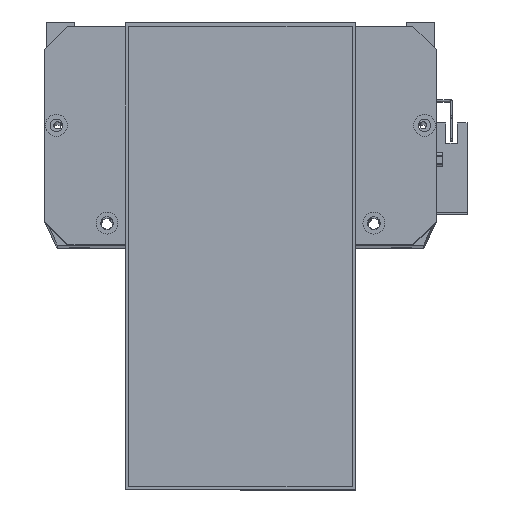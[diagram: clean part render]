
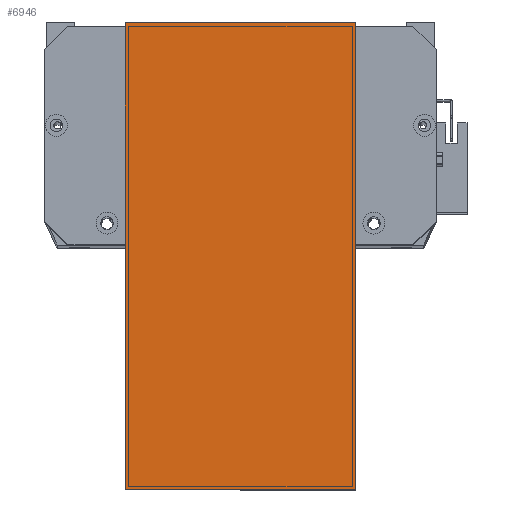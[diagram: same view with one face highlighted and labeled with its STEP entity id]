
A CAD part, top view. The second image highlights one B-rep face of the part: STEP entity #6946.
In plain terms, the highlighted planar face has unit normal (0, 0, 1) as drawn and (0, 0, -1) by its records, which use the part's own axes.
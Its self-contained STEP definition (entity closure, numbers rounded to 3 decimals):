
#1379 = DIRECTION ( 'NONE',  ( -1., 0., 0. ) ) ;
#1531 = CARTESIAN_POINT ( 'NONE',  ( -12., 19.5, 0. ) ) ;
#1579 = LINE ( 'NONE', #7196, #6642 ) ;
#1707 = AXIS2_PLACEMENT_3D ( 'NONE', #27386, #14382, #1379 ) ;
#2531 = VERTEX_POINT ( 'NONE', #24498 ) ;
#2862 = EDGE_CURVE ( 'NONE', #6962, #2531, #21119, .T. ) ;
#2915 = CARTESIAN_POINT ( 'NONE',  ( -12., 119.5, 0. ) ) ;
#4091 = VECTOR ( 'NONE', #10221, 1000. ) ;
#4379 = ORIENTED_EDGE ( 'NONE', *, *, #19352, .T. ) ;
#4855 = LINE ( 'NONE', #2915, #10649 ) ;
#6642 = VECTOR ( 'NONE', #15915, 1000. ) ;
#6946 = ADVANCED_FACE ( 'NONE', ( #21541 ), #10029, .T. ) ;
#6962 = VERTEX_POINT ( 'NONE', #23117 ) ;
#7041 = VERTEX_POINT ( 'NONE', #27623 ) ;
#7196 = CARTESIAN_POINT ( 'NONE',  ( 0., 0., 0. ) ) ;
#8339 = CARTESIAN_POINT ( 'NONE',  ( 0., 119.5, 0. ) ) ;
#10029 = PLANE ( 'NONE',  #1707 ) ;
#10221 = DIRECTION ( 'NONE',  ( 0., 1., 0. ) ) ;
#10649 = VECTOR ( 'NONE', #11564, 1000. ) ;
#11084 = ORIENTED_EDGE ( 'NONE', *, *, #2862, .F. ) ;
#11564 = DIRECTION ( 'NONE',  ( 1., 0., 0. ) ) ;
#14382 = DIRECTION ( 'NONE',  ( 0., 0., -1. ) ) ;
#14563 = CARTESIAN_POINT ( 'NONE',  ( 203., 0., 0. ) ) ;
#15273 = ORIENTED_EDGE ( 'NONE', *, *, #21856, .F. ) ;
#15915 = DIRECTION ( 'NONE',  ( 0., -1., 0. ) ) ;
#16719 = DIRECTION ( 'NONE',  ( 1., 0., 0. ) ) ;
#16881 = VERTEX_POINT ( 'NONE', #8339 ) ;
#19352 = EDGE_CURVE ( 'NONE', #16881, #7041, #4855, .T. ) ;
#19751 = VECTOR ( 'NONE', #16719, 1000. ) ;
#21119 = LINE ( 'NONE', #1531, #19751 ) ;
#21387 = LINE ( 'NONE', #14563, #4091 ) ;
#21541 = FACE_OUTER_BOUND ( 'NONE', #25504, .T. ) ;
#21856 = EDGE_CURVE ( 'NONE', #2531, #7041, #21387, .T. ) ;
#22138 = ORIENTED_EDGE ( 'NONE', *, *, #24740, .F. ) ;
#23117 = CARTESIAN_POINT ( 'NONE',  ( 0., 19.5, 0. ) ) ;
#24498 = CARTESIAN_POINT ( 'NONE',  ( 203., 19.5, 0. ) ) ;
#24740 = EDGE_CURVE ( 'NONE', #16881, #6962, #1579, .T. ) ;
#25504 = EDGE_LOOP ( 'NONE', ( #11084, #22138, #4379, #15273 ) ) ;
#27386 = CARTESIAN_POINT ( 'NONE',  ( 0., 0., 0. ) ) ;
#27623 = CARTESIAN_POINT ( 'NONE',  ( 203., 119.5, 0. ) ) ;
